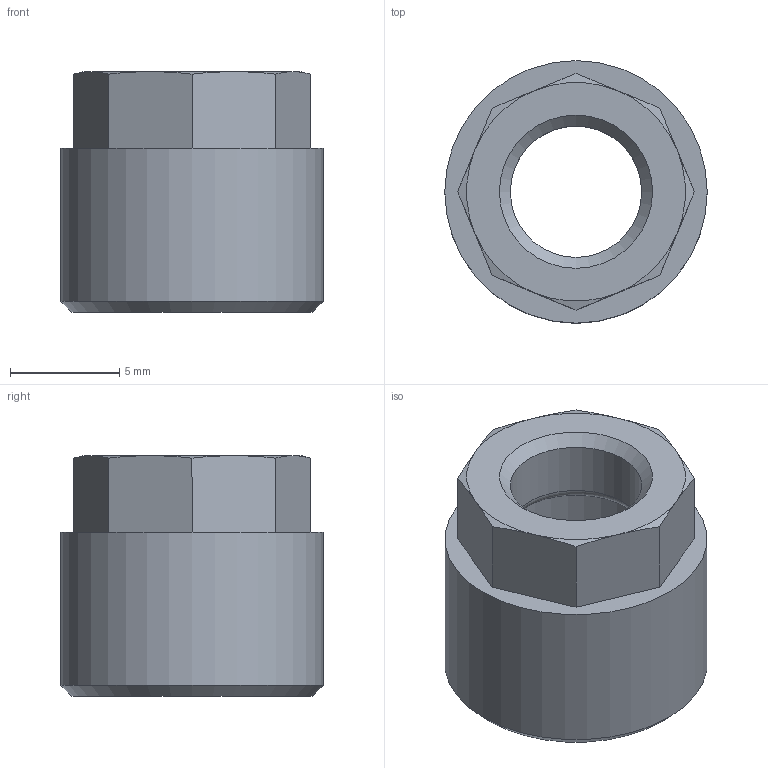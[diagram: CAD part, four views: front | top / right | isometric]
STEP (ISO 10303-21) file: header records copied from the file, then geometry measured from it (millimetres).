
FILE_DESCRIPTION(/* description */ (''),/* implementation_level */ '2;1');
FILE_NAME(/* name */ '17005_310_6-4_M10X1_06.03.17',/* time_stamp */ '2017-03-06T15:43:09+01:00',/* author */ (''),/* organization */ (''),/* preprocessor_version */ 'ST-DEVELOPER v16.5',/* originating_system */ 'HiCAD 2016 2102.1 Build 498',/* authorisation */ '');
FILE_SCHEMA (('AUTOMOTIVE_DESIGN { 1 0 10303 214 1 1 1 1 }'));
Length unit declared in the file: millimetre
Products named in the file (2): Root; 17005
Assembly tree (1 placements, depth 2):
  Root
    17005
Bounding box: 12 x 12 x 11 mm (x, y, z)
Volume: 574.2 mm3; surface area: 796.6 mm2
Topology: 1 solids, 1 shells, 27 faces, 62 edges, 38 vertices
Faces by surface type: cone 12, plane 11, cylinder 3, torus 1
Full cylindrical faces by diameter (mm): 6 x1, 8.773 x1, 12 x1
Entity records: 1234 total; most frequent: DIRECTION 142, CARTESIAN_POINT 113, PRESENTATION_STYLE_ASSIGNMENT 101, COLOUR_RGB 101, DRAUGHTING_PRE_DEFINED_CURVE_FONT 100, CURVE_STYLE 100, OVER_RIDING_STYLED_ITEM 100, ORIENTED_EDGE 100
